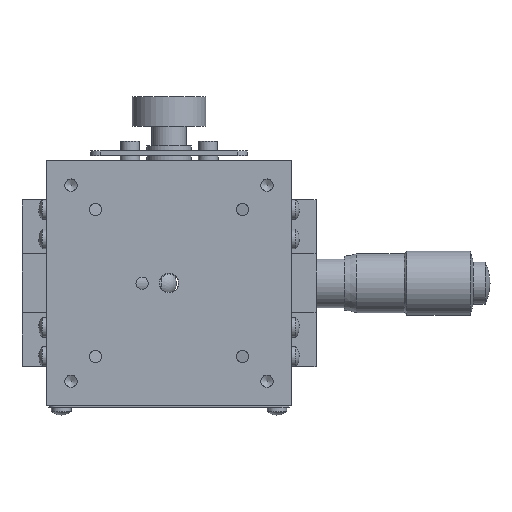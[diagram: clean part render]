
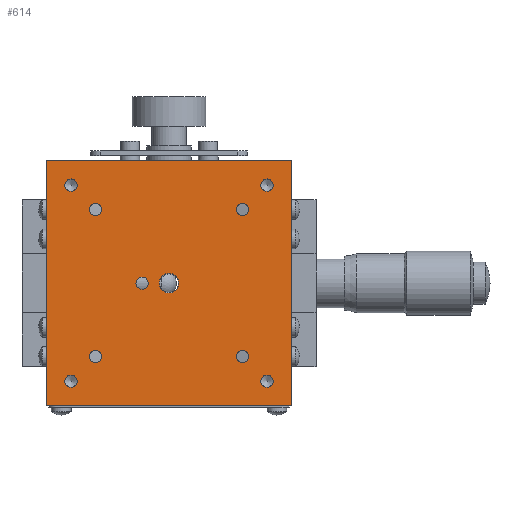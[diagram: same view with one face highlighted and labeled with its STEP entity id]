
A CAD part, top view. The second image highlights one B-rep face of the part: STEP entity #614.
In plain terms, the highlighted planar face has unit normal (0, 0, 1).
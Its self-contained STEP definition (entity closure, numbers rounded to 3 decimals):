
#614 = ADVANCED_FACE( '', ( #1383, #1384, #1385, #1386, #1387, #1388, #1389, #1390, #1391, #1392, #1393 ), #1394, .T. );
#1383 = FACE_BOUND( '', #2292, .T. );
#1384 = FACE_BOUND( '', #2293, .T. );
#1385 = FACE_BOUND( '', #2294, .T. );
#1386 = FACE_BOUND( '', #2295, .T. );
#1387 = FACE_BOUND( '', #2296, .T. );
#1388 = FACE_BOUND( '', #2297, .T. );
#1389 = FACE_BOUND( '', #2298, .T. );
#1390 = FACE_BOUND( '', #2299, .T. );
#1391 = FACE_BOUND( '', #2300, .T. );
#1392 = FACE_BOUND( '', #2301, .T. );
#1393 = FACE_OUTER_BOUND( '', #2302, .T. );
#1394 = PLANE( '', #2303 );
#2292 = EDGE_LOOP( '', ( #3907 ) );
#2293 = EDGE_LOOP( '', ( #3908 ) );
#2294 = EDGE_LOOP( '', ( #3909 ) );
#2295 = EDGE_LOOP( '', ( #3910 ) );
#2296 = EDGE_LOOP( '', ( #3911 ) );
#2297 = EDGE_LOOP( '', ( #3912 ) );
#2298 = EDGE_LOOP( '', ( #3913 ) );
#2299 = EDGE_LOOP( '', ( #3914 ) );
#2300 = EDGE_LOOP( '', ( #3915 ) );
#2301 = EDGE_LOOP( '', ( #3916 ) );
#2302 = EDGE_LOOP( '', ( #3917, #3918, #3919, #3920 ) );
#2303 = AXIS2_PLACEMENT_3D( '', #3921, #3922, #3923 );
#3907 = ORIENTED_EDGE( '', *, *, #5200, .T. );
#3908 = ORIENTED_EDGE( '', *, *, #5059, .F. );
#3909 = ORIENTED_EDGE( '', *, *, #4779, .T. );
#3910 = ORIENTED_EDGE( '', *, *, #5201, .T. );
#3911 = ORIENTED_EDGE( '', *, *, #5202, .T. );
#3912 = ORIENTED_EDGE( '', *, *, #5157, .T. );
#3913 = ORIENTED_EDGE( '', *, *, #4727, .T. );
#3914 = ORIENTED_EDGE( '', *, *, #5128, .T. );
#3915 = ORIENTED_EDGE( '', *, *, #4767, .T. );
#3916 = ORIENTED_EDGE( '', *, *, #5084, .T. );
#3917 = ORIENTED_EDGE( '', *, *, #4955, .F. );
#3918 = ORIENTED_EDGE( '', *, *, #5020, .F. );
#3919 = ORIENTED_EDGE( '', *, *, #4853, .F. );
#3920 = ORIENTED_EDGE( '', *, *, #5203, .F. );
#3921 = CARTESIAN_POINT( '', ( -25., 25., 18. ) );
#3922 = DIRECTION( '', ( 0., 0., 1. ) );
#3923 = DIRECTION( '', ( 0., 1., 0. ) );
#4727 = EDGE_CURVE( '', #5563, #5563, #5564, .T. );
#4767 = EDGE_CURVE( '', #5634, #5634, #5635, .T. );
#4779 = EDGE_CURVE( '', #5652, #5652, #5653, .T. );
#4853 = EDGE_CURVE( '', #5779, #5781, #5782, .T. );
#4955 = EDGE_CURVE( '', #5943, #5945, #5946, .T. );
#5020 = EDGE_CURVE( '', #5781, #5943, #6039, .T. );
#5059 = EDGE_CURVE( '', #6090, #6090, #6091, .T. );
#5084 = EDGE_CURVE( '', #6122, #6122, #6123, .T. );
#5128 = EDGE_CURVE( '', #6181, #6181, #6182, .T. );
#5157 = EDGE_CURVE( '', #6219, #6219, #6220, .T. );
#5200 = EDGE_CURVE( '', #6276, #6276, #6277, .T. );
#5201 = EDGE_CURVE( '', #6278, #6278, #6279, .T. );
#5202 = EDGE_CURVE( '', #6280, #6280, #6281, .T. );
#5203 = EDGE_CURVE( '', #5945, #5779, #6282, .T. );
#5563 = VERTEX_POINT( '', #6887 );
#5564 = CIRCLE( '', #6888, 1.25 );
#5634 = VERTEX_POINT( '', #7036 );
#5635 = CIRCLE( '', #7037, 1.25 );
#5652 = VERTEX_POINT( '', #7217 );
#5653 = CIRCLE( '', #7218, 1.25 );
#5779 = VERTEX_POINT( '', #7395 );
#5781 = VERTEX_POINT( '', #7398 );
#5782 = LINE( '', #7399, #7400 );
#5943 = VERTEX_POINT( '', #7606 );
#5945 = VERTEX_POINT( '', #7609 );
#5946 = LINE( '', #7610, #7611 );
#6039 = LINE( '', #7743, #7744 );
#6090 = VERTEX_POINT( '', #7811 );
#6091 = CIRCLE( '', #7812, 1.25 );
#6122 = VERTEX_POINT( '', #7851 );
#6123 = CIRCLE( '', #7852, 1.25 );
#6181 = VERTEX_POINT( '', #7922 );
#6182 = CIRCLE( '', #7923, 1.25 );
#6219 = VERTEX_POINT( '', #7984 );
#6220 = CIRCLE( '', #7985, 1.25 );
#6276 = VERTEX_POINT( '', #8116 );
#6277 = CIRCLE( '', #8117, 2. );
#6278 = VERTEX_POINT( '', #8118 );
#6279 = CIRCLE( '', #8119, 1.25 );
#6280 = VERTEX_POINT( '', #8120 );
#6281 = CIRCLE( '', #8121, 1.25 );
#6282 = LINE( '', #8122, #8123 );
#6887 = CARTESIAN_POINT( '', ( -5., 46.25, 18. ) );
#6888 = AXIS2_PLACEMENT_3D( '', #8574, #8575, #8576 );
#7036 = CARTESIAN_POINT( '', ( -45., 6.25, 18. ) );
#7037 = AXIS2_PLACEMENT_3D( '', #8635, #8636, #8637 );
#7217 = CARTESIAN_POINT( '', ( -10., 41.25, 18. ) );
#7218 = AXIS2_PLACEMENT_3D( '', #8652, #8653, #8654 );
#7395 = CARTESIAN_POINT( '', ( -50., 0., 18. ) );
#7398 = CARTESIAN_POINT( '', ( -50., 50., 18. ) );
#7399 = CARTESIAN_POINT( '', ( -50., 25., 18. ) );
#7400 = VECTOR( '', #8731, 1000. );
#7606 = CARTESIAN_POINT( '', ( 0., 50., 18. ) );
#7609 = CARTESIAN_POINT( '', ( 0., 0., 18. ) );
#7610 = CARTESIAN_POINT( '', ( 0., 25., 18. ) );
#7611 = VECTOR( '', #8871, 1000. );
#7743 = CARTESIAN_POINT( '', ( -25., 50., 18. ) );
#7744 = VECTOR( '', #8966, 1000. );
#7811 = CARTESIAN_POINT( '', ( -30.5, 26.25, 18. ) );
#7812 = AXIS2_PLACEMENT_3D( '', #9020, #9021, #9022 );
#7851 = CARTESIAN_POINT( '', ( -45., 46.25, 18. ) );
#7852 = AXIS2_PLACEMENT_3D( '', #9049, #9050, #9051 );
#7922 = CARTESIAN_POINT( '', ( -5., 6.25, 18. ) );
#7923 = AXIS2_PLACEMENT_3D( '', #9100, #9101, #9102 );
#7984 = CARTESIAN_POINT( '', ( -40., 41.25, 18. ) );
#7985 = AXIS2_PLACEMENT_3D( '', #9131, #9132, #9133 );
#8116 = CARTESIAN_POINT( '', ( -25., 27., 18. ) );
#8117 = AXIS2_PLACEMENT_3D( '', #9181, #9182, #9183 );
#8118 = CARTESIAN_POINT( '', ( -10., 11.25, 18. ) );
#8119 = AXIS2_PLACEMENT_3D( '', #9184, #9185, #9186 );
#8120 = CARTESIAN_POINT( '', ( -40., 11.25, 18. ) );
#8121 = AXIS2_PLACEMENT_3D( '', #9187, #9188, #9189 );
#8122 = CARTESIAN_POINT( '', ( -25., 0., 18. ) );
#8123 = VECTOR( '', #9190, 1000. );
#8574 = CARTESIAN_POINT( '', ( -5., 45., 18. ) );
#8575 = DIRECTION( '', ( 0., 0., -1. ) );
#8576 = DIRECTION( '', ( 0., 1., 0. ) );
#8635 = CARTESIAN_POINT( '', ( -45., 5., 18. ) );
#8636 = DIRECTION( '', ( 0., 0., -1. ) );
#8637 = DIRECTION( '', ( 0., 1., 0. ) );
#8652 = CARTESIAN_POINT( '', ( -10., 40., 18. ) );
#8653 = DIRECTION( '', ( 0., 0., -1. ) );
#8654 = DIRECTION( '', ( 0., 1., 0. ) );
#8731 = DIRECTION( '', ( 0., 1., 0. ) );
#8871 = DIRECTION( '', ( 0., -1., 0. ) );
#8966 = DIRECTION( '', ( 1., 0., 0. ) );
#9020 = CARTESIAN_POINT( '', ( -30.5, 25., 18. ) );
#9021 = DIRECTION( '', ( 0., 0., 1. ) );
#9022 = DIRECTION( '', ( 0., 1., 0. ) );
#9049 = CARTESIAN_POINT( '', ( -45., 45., 18. ) );
#9050 = DIRECTION( '', ( 0., 0., -1. ) );
#9051 = DIRECTION( '', ( 0., 1., 0. ) );
#9100 = CARTESIAN_POINT( '', ( -5., 5., 18. ) );
#9101 = DIRECTION( '', ( 0., 0., -1. ) );
#9102 = DIRECTION( '', ( 0., 1., 0. ) );
#9131 = CARTESIAN_POINT( '', ( -40., 40., 18. ) );
#9132 = DIRECTION( '', ( 0., 0., -1. ) );
#9133 = DIRECTION( '', ( 0., 1., 0. ) );
#9181 = CARTESIAN_POINT( '', ( -25., 25., 18. ) );
#9182 = DIRECTION( '', ( 0., 0., -1. ) );
#9183 = DIRECTION( '', ( 0., 1., 0. ) );
#9184 = CARTESIAN_POINT( '', ( -10., 10., 18. ) );
#9185 = DIRECTION( '', ( 0., 0., -1. ) );
#9186 = DIRECTION( '', ( 0., 1., 0. ) );
#9187 = CARTESIAN_POINT( '', ( -40., 10., 18. ) );
#9188 = DIRECTION( '', ( 0., 0., -1. ) );
#9189 = DIRECTION( '', ( 0., 1., 0. ) );
#9190 = DIRECTION( '', ( -1., 0., 0. ) );
